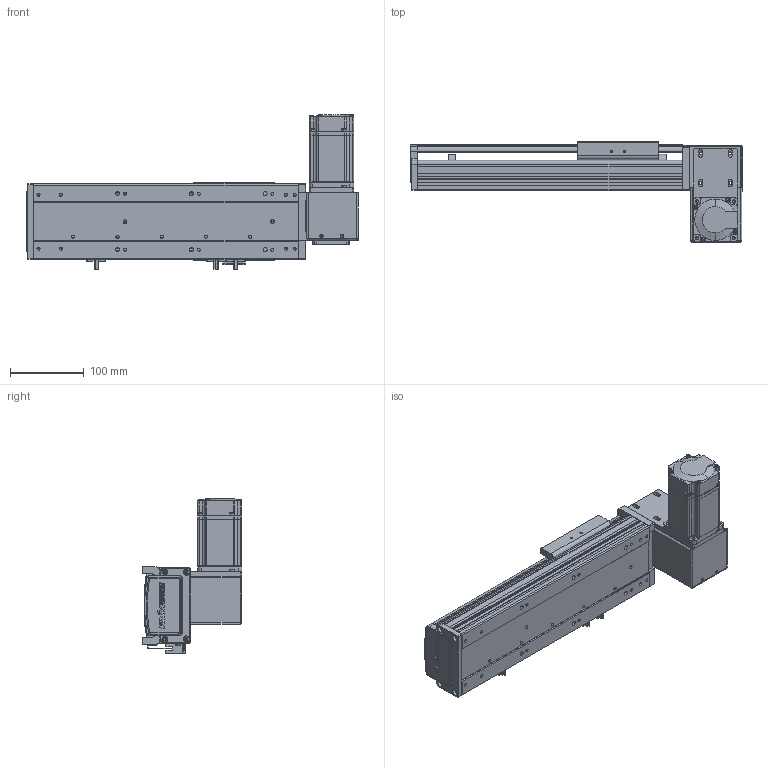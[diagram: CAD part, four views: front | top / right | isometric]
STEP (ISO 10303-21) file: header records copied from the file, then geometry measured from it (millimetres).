
FILE_DESCRIPTION (( 'STEP AP203' ), '1' );
FILE_NAME ('RY100-T-300-DR.SLDASM_150.step', '2024-04-25T03:21:46', ( '盈信电脑' ), ( '东莞市道滘镇水果街19号' ), 'SwSTEP 2.0', 'SolidWorks 2016', '' );
FILE_SCHEMA (( 'CONFIG_CONTROL_DESIGN' ));
Length unit declared in the file: millimetre
Products named in the file (16): RY100-T肮祭謫臏賑輸; RY100-T-300-DR.SLDASM_150; RY100-T肮祭謫翋盓傅釱; RY100-T翋肮祭謫裔啣2; 覜茼ん672; RY100-T粣創揤踡裔; RY100綴裔啣; RY100-T左右折电机安装板; RY100-T翋肮祭謫裔啣; RY80-T肮祭謫狟殏俋欶; 1; RY100-T-300-RK倰第奻裔_150; RY100-T-300-RK倰第菁釱_150; RY100俋离覜茼え; 侂狟200W萇儂; 滅袉蝶18-10
Assembly tree (19 placements, depth 3):
  RY100-T-300-DR.SLDASM_150
    RY100-T-300-RK倰第菁釱_150
    RY100-T-300-RK倰第奻裔_150
    RY100-T肮祭謫臏賑輸
    RY100綴裔啣
    覜茼ん672  x3
    RY100俋离覜茼え
    RY100-T肮祭謫翋盓傅釱
    RY100-T左右折电机安装板
    侂狟200W萇儂
      1
    RY100-T粣創揤踡裔
    滅袉蝶18-10  x2
    RY100-T翋肮祭謫裔啣2  x2
    RY100-T翋肮祭謫裔啣
    RY80-T肮祭謫狟殏俋欶
Bounding box: 450 x 135.5 x 209.7 mm (x, y, z)
Volume: 1287169 mm3; surface area: 488897.9 mm2
Topology: 18 solids, 18 shells, 2103 faces, 5795 edges, 3759 vertices
Faces by surface type: plane 1197, cylinder 705, cone 123, bspline 78
Entity records: 66124 total; most frequent: CARTESIAN_POINT 15582, ORIENTED_EDGE 10326, DIRECTION 9859, EDGE_CURVE 5163, LINE 3453, VECTOR 3453, VERTEX_POINT 3395, AXIS2_PLACEMENT_3D 3203
